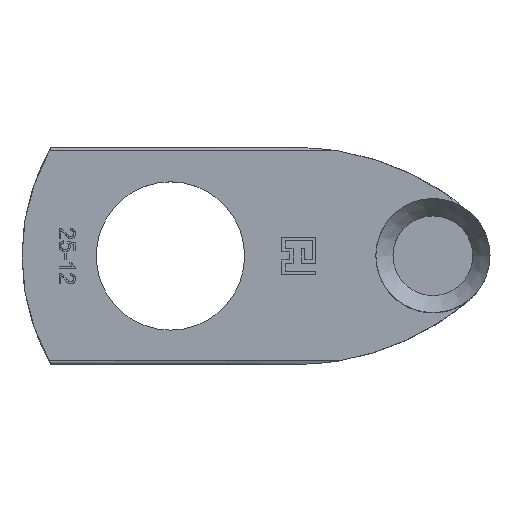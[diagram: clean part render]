
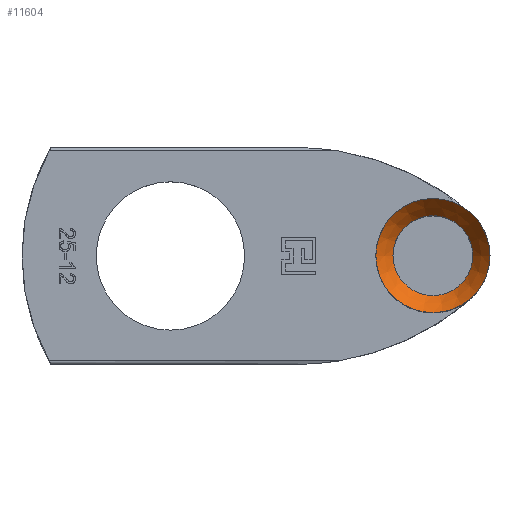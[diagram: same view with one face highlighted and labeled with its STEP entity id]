
A CAD part, top view. The second image highlights one B-rep face of the part: STEP entity #11604.
In plain terms, the highlighted conical face has half-angle 36.87 degrees and reference radius 3.5 mm.
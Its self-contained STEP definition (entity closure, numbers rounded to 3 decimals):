
#179 = CYLINDRICAL_SURFACE('',#180,5.);
#180 = AXIS2_PLACEMENT_3D('',#181,#182,#183);
#181 = CARTESIAN_POINT('',(36.,0.,7.108));
#182 = DIRECTION('',(0.,0.,-1.));
#183 = DIRECTION('',(1.,0.,0.));
#11552 = VERTEX_POINT('',#11553);
#11553 = CARTESIAN_POINT('',(41.,0.,22.108));
#11573 = EDGE_CURVE('',#11552,#11552,#11574,.T.);
#11574 = SURFACE_CURVE('',#11575,(#11580,#11587),.PCURVE_S1.);
#11575 = CIRCLE('',#11576,5.);
#11576 = AXIS2_PLACEMENT_3D('',#11577,#11578,#11579);
#11577 = CARTESIAN_POINT('',(36.,0.,22.108));
#11578 = DIRECTION('',(0.,0.,1.));
#11579 = DIRECTION('',(1.,0.,0.));
#11580 = PCURVE('',#179,#11581);
#11581 = DEFINITIONAL_REPRESENTATION('',(#11582),#11586);
#11582 = LINE('',#11583,#11584);
#11583 = CARTESIAN_POINT('',(-0.,-15.));
#11584 = VECTOR('',#11585,1.);
#11585 = DIRECTION('',(-1.,0.));
#11586 = ( GEOMETRIC_REPRESENTATION_CONTEXT(2) 
PARAMETRIC_REPRESENTATION_CONTEXT() REPRESENTATION_CONTEXT('2D SPACE',''
  ) );
#11587 = PCURVE('',#11588,#11593);
#11588 = CONICAL_SURFACE('',#11589,3.5,0.644);
#11589 = AXIS2_PLACEMENT_3D('',#11590,#11591,#11592);
#11590 = CARTESIAN_POINT('',(36.,0.,20.108));
#11591 = DIRECTION('',(0.,0.,1.));
#11592 = DIRECTION('',(1.,0.,0.));
#11593 = DEFINITIONAL_REPRESENTATION('',(#11594),#11597);
#11594 = B_SPLINE_CURVE_WITH_KNOTS('',1,(#11595,#11596),.UNSPECIFIED.,
  .F.,.F.,(2,2),(0.,6.283),.PIECEWISE_BEZIER_KNOTS.);
#11595 = CARTESIAN_POINT('',(0.,2.));
#11596 = CARTESIAN_POINT('',(6.283,2.));
#11597 = ( GEOMETRIC_REPRESENTATION_CONTEXT(2) 
PARAMETRIC_REPRESENTATION_CONTEXT() REPRESENTATION_CONTEXT('2D SPACE',''
  ) );
#11604 = ADVANCED_FACE('',(#11605),#11588,.F.);
#11605 = FACE_BOUND('',#11606,.F.);
#11606 = EDGE_LOOP('',(#11607,#11608,#11631,#11658));
#11607 = ORIENTED_EDGE('',*,*,#11573,.F.);
#11608 = ORIENTED_EDGE('',*,*,#11609,.F.);
#11609 = EDGE_CURVE('',#11610,#11552,#11612,.T.);
#11610 = VERTEX_POINT('',#11611);
#11611 = CARTESIAN_POINT('',(39.5,0.,20.108));
#11612 = SEAM_CURVE('',#11613,(#11617,#11624),.PCURVE_S1.);
#11613 = LINE('',#11614,#11615);
#11614 = CARTESIAN_POINT('',(39.5,0.,20.108));
#11615 = VECTOR('',#11616,1.);
#11616 = DIRECTION('',(0.6,0.,0.8));
#11617 = PCURVE('',#11588,#11618);
#11618 = DEFINITIONAL_REPRESENTATION('',(#11619),#11623);
#11619 = LINE('',#11620,#11621);
#11620 = CARTESIAN_POINT('',(6.283,-0.));
#11621 = VECTOR('',#11622,1.);
#11622 = DIRECTION('',(0.,1.));
#11623 = ( GEOMETRIC_REPRESENTATION_CONTEXT(2) 
PARAMETRIC_REPRESENTATION_CONTEXT() REPRESENTATION_CONTEXT('2D SPACE',''
  ) );
#11624 = PCURVE('',#11588,#11625);
#11625 = DEFINITIONAL_REPRESENTATION('',(#11626),#11630);
#11626 = LINE('',#11627,#11628);
#11627 = CARTESIAN_POINT('',(0.,-0.));
#11628 = VECTOR('',#11629,1.);
#11629 = DIRECTION('',(0.,1.));
#11630 = ( GEOMETRIC_REPRESENTATION_CONTEXT(2) 
PARAMETRIC_REPRESENTATION_CONTEXT() REPRESENTATION_CONTEXT('2D SPACE',''
  ) );
#11631 = ORIENTED_EDGE('',*,*,#11632,.T.);
#11632 = EDGE_CURVE('',#11610,#11610,#11633,.T.);
#11633 = SURFACE_CURVE('',#11634,(#11639,#11646),.PCURVE_S1.);
#11634 = CIRCLE('',#11635,3.5);
#11635 = AXIS2_PLACEMENT_3D('',#11636,#11637,#11638);
#11636 = CARTESIAN_POINT('',(36.,0.,20.108));
#11637 = DIRECTION('',(0.,0.,1.));
#11638 = DIRECTION('',(1.,0.,0.));
#11639 = PCURVE('',#11588,#11640);
#11640 = DEFINITIONAL_REPRESENTATION('',(#11641),#11645);
#11641 = LINE('',#11642,#11643);
#11642 = CARTESIAN_POINT('',(0.,0.));
#11643 = VECTOR('',#11644,1.);
#11644 = DIRECTION('',(1.,0.));
#11645 = ( GEOMETRIC_REPRESENTATION_CONTEXT(2) 
PARAMETRIC_REPRESENTATION_CONTEXT() REPRESENTATION_CONTEXT('2D SPACE',''
  ) );
#11646 = PCURVE('',#11647,#11652);
#11647 = CYLINDRICAL_SURFACE('',#11648,3.5);
#11648 = AXIS2_PLACEMENT_3D('',#11649,#11650,#11651);
#11649 = CARTESIAN_POINT('',(36.,0.,7.108));
#11650 = DIRECTION('',(0.,0.,-1.));
#11651 = DIRECTION('',(1.,0.,0.));
#11652 = DEFINITIONAL_REPRESENTATION('',(#11653),#11657);
#11653 = LINE('',#11654,#11655);
#11654 = CARTESIAN_POINT('',(0.,-13.));
#11655 = VECTOR('',#11656,1.);
#11656 = DIRECTION('',(-1.,0.));
#11657 = ( GEOMETRIC_REPRESENTATION_CONTEXT(2) 
PARAMETRIC_REPRESENTATION_CONTEXT() REPRESENTATION_CONTEXT('2D SPACE',''
  ) );
#11658 = ORIENTED_EDGE('',*,*,#11609,.T.);
